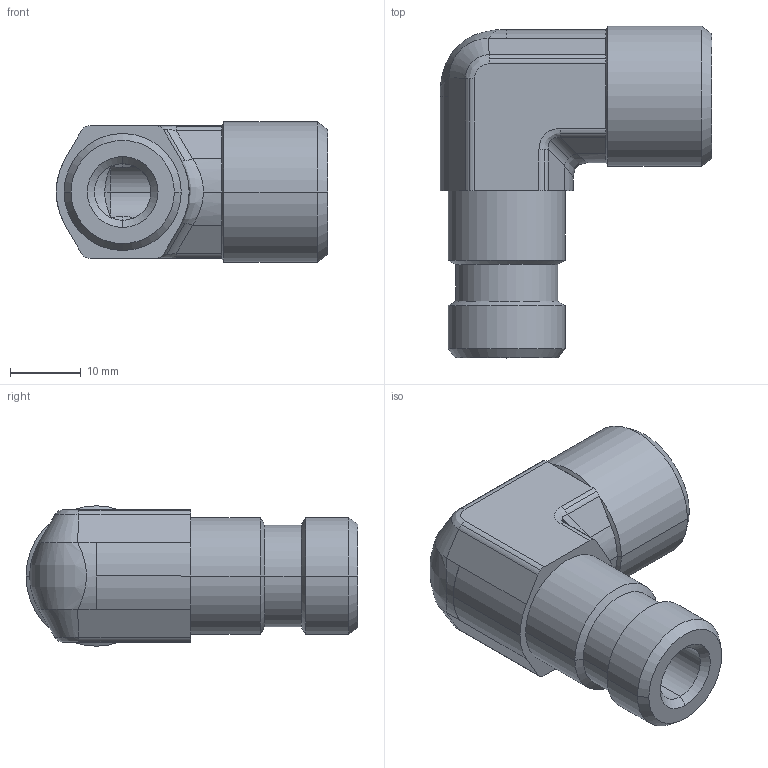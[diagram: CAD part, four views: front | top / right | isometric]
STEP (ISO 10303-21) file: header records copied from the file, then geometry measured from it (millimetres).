
FILE_DESCRIPTION((''),'2;1');
FILE_NAME('106117.stp','2007-10-31T14:49:38',(''),(''),'AutoCAD STEP 2000i','AutoCAD 2000i',', , ');
FILE_SCHEMA(('CONFIG_CONTROL_DESIGN'));
Length unit declared in the file: millimetre
Products named in the file (2): 106117.0; 3090#0
Assembly tree (1 placements, depth 2):
  106117.0
    3090#0
Bounding box: 38.4 x 46.92 x 19.85 mm (x, y, z)
Volume: 13375.1 mm3; surface area: 5992.8 mm2
Topology: 1 solids, 1 shells, 105 faces, 236 edges, 135 vertices
Faces by surface type: cylinder 48, cone 23, plane 22, bspline 12
Entity records: 3684 total; most frequent: CARTESIAN_POINT 1232, DIRECTION 527, ORIENTED_EDGE 472, EDGE_CURVE 236, AXIS2_PLACEMENT_3D 216, VERTEX_POINT 135, EDGE_LOOP 109, FACE_OUTER_BOUND 105
